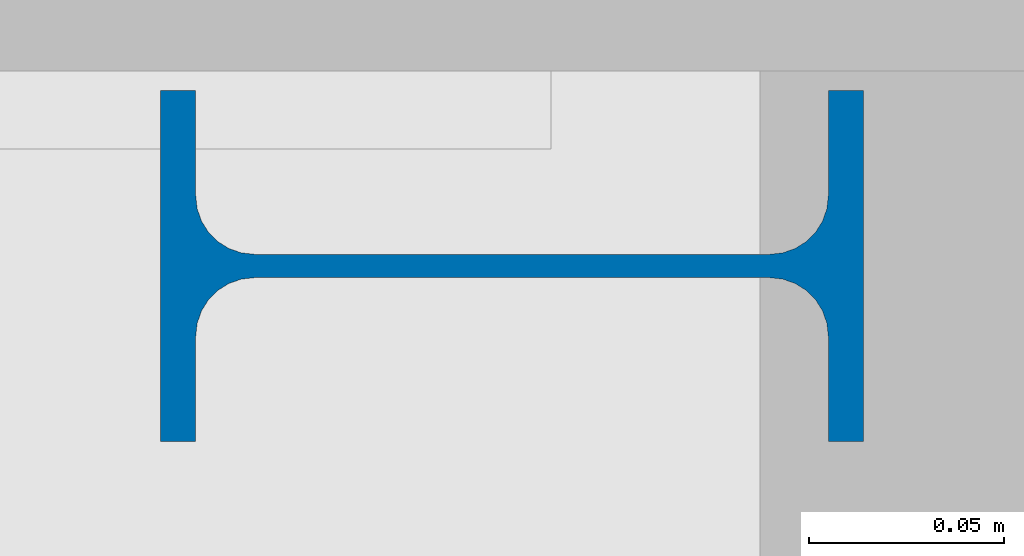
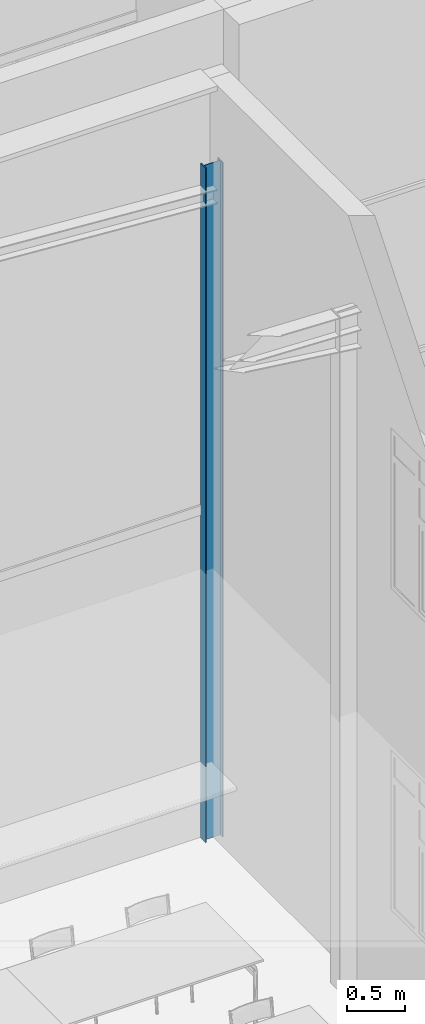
# One storey, part 7 of 137: 1 column.
"""IFC2X3 building model written with IfcOpenShell, lengths in centimetres."""

from ifc_helpers import new_model, entity, si_unit, converted_unit, derived_unit, direction, frame, frame_2d, origin, place, context, subcontext, project, spatial, polyline, circle_curve, parameter, trimmed, segment, composite_curve, outline, extrude, source, transform, mapped, material, type_object, type_shapes, element, save


model = new_model("IFC2X3")

# Units and contexts
model_context = context("Model", 3, precision=0.001, world=origin(), true_north=direction((6.12303176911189e-17, 1.0)))
body_context = subcontext(model_context, "Body", "Model", "MODEL_VIEW")
ifc_project = project(units=[si_unit("LENGTHUNIT", "METRE", prefix="CENTI"), si_unit("AREAUNIT", "SQUARE_METRE"), si_unit("VOLUMEUNIT", "CUBIC_METRE"), converted_unit("PLANEANGLEUNIT", "DEGREE", entity("IfcRatioMeasure", 0.0174532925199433), si_unit("PLANEANGLEUNIT", "RADIAN"), dimensions=[0, 0, 0, 0, 0, 0, 0]), si_unit("MASSUNIT", "GRAM", prefix="KILO"), si_unit("TIMEUNIT", "SECOND"), si_unit("FREQUENCYUNIT", "HERTZ"), si_unit("THERMODYNAMICTEMPERATUREUNIT", "DEGREE_CELSIUS"), derived_unit("THERMALTRANSMITTANCEUNIT", [(si_unit("MASSUNIT", "GRAM", prefix="KILO"), 1), (si_unit("THERMODYNAMICTEMPERATUREUNIT", "KELVIN"), -1), (si_unit("TIMEUNIT", "SECOND"), -3)]), derived_unit("VOLUMETRICFLOWRATEUNIT", [(si_unit("LENGTHUNIT", "METRE"), 3), (si_unit("TIMEUNIT", "SECOND"), -1)]), si_unit("ELECTRICCURRENTUNIT", "AMPERE"), si_unit("ELECTRICVOLTAGEUNIT", "VOLT"), si_unit("POWERUNIT", "WATT"), si_unit("FORCEUNIT", "NEWTON", prefix="KILO"), si_unit("ILLUMINANCEUNIT", "LUX"), si_unit("LUMINOUSFLUXUNIT", "LUMEN"), si_unit("LUMINOUSINTENSITYUNIT", "CANDELA"), derived_unit("USERDEFINED", [(si_unit("MASSUNIT", "GRAM", prefix="KILO"), -1), (si_unit("LENGTHUNIT", "METRE"), -2), (si_unit("TIMEUNIT", "SECOND"), 3), (si_unit("LUMINOUSFLUXUNIT", "LUMEN"), 1)]), derived_unit("LINEARVELOCITYUNIT", [(si_unit("LENGTHUNIT", "METRE"), 1), (si_unit("TIMEUNIT", "SECOND"), -1)]), si_unit("PRESSUREUNIT", "PASCAL"), derived_unit("USERDEFINED", [(si_unit("LENGTHUNIT", "METRE"), -2), (si_unit("MASSUNIT", "GRAM", prefix="KILO"), 1), (si_unit("TIMEUNIT", "SECOND"), -2)])], contexts=[model_context])

# Site, building, storey
site_placement = place(None, frame((8.62739174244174, -249.285249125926, 0.0)))
site = spatial("IfcSite", under=ifc_project, at=site_placement, Name="Default", CompositionType="ELEMENT")
building_placement = place(site_placement, origin())
building = spatial("IfcBuilding", under=site, at=building_placement, CompositionType="ELEMENT")
storey_placement = place(building_placement, origin())
storey = spatial("IfcBuildingStorey", under=building, at=storey_placement, Name="RDC", CompositionType="ELEMENT", Elevation=-8.82465566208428e-11)

# Column
ifc_material = material(Name="Acier, 45-345")
column_type = type_object("IfcColumnType", Name="IPE 180", PredefinedType="COLUMN", material=ifc_material)
shared_shape = source(origin(), body_context, "Body", "SweptSolid", [
    extrude(outline(composite_curve([segment(polyline([(8.1, -4.5), (9.0, -4.5)]), True, "CONTINUOUS"), segment(polyline([(9.0, -4.5), (9.0, 4.5)]), True, "CONTINUOUS"), segment(polyline([(9.0, 4.5), (8.1, 4.5)]), True, "CONTINUOUS"), segment(polyline([(8.1, 4.5), (8.1, 1.8)]), True, "CONTINUOUS"), segment(trimmed(circle_curve(frame_2d((6.6, 1.8), x_axis=(1.0, 0.0)), 1.5), [parameter(270.0)], [parameter(0.0)], True, "PARAMETER"), False, "CONTINUOUS"), segment(polyline([(6.60000000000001, 0.300000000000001), (-6.6, 0.300000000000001)]), True, "CONTINUOUS"), segment(trimmed(circle_curve(frame_2d((-6.6, 1.8), x_axis=(0.0, -1.0)), 1.5), [parameter(270.0)], [parameter(0.0)], True, "PARAMETER"), False, "CONTINUOUS"), segment(polyline([(-8.1, 1.8), (-8.1, 4.5)]), True, "CONTINUOUS"), segment(polyline([(-8.1, 4.5), (-9.0, 4.5)]), True, "CONTINUOUS"), segment(polyline([(-9.0, 4.5), (-9.0, -4.5)]), True, "CONTINUOUS"), segment(polyline([(-9.0, -4.5), (-8.1, -4.5)]), True, "CONTINUOUS"), segment(polyline([(-8.1, -4.5), (-8.1, -1.8)]), True, "CONTINUOUS"), segment(trimmed(circle_curve(frame_2d((-6.6, -1.8), x_axis=(-1.0, 0.0)), 1.5), [parameter(270.0)], [parameter(0.0)], True, "PARAMETER"), False, "CONTINUOUS"), segment(polyline([(-6.6, -0.3), (6.6, -0.3)]), True, "CONTINUOUS"), segment(trimmed(circle_curve(frame_2d((6.6, -1.8), x_axis=(0.0, 1.0)), 1.5), [parameter(270.0)], [parameter(0.0)], True, "PARAMETER"), False, "CONTINUOUS"), segment(polyline([(8.1, -1.8), (8.1, -4.5)]), True, "CONTINUOUS")], self_intersect=False)), frame((0.0, 0.0, 0.0), z_axis=(0.0, 0.0, 1.0), x_axis=(0.0, -1.0, 0.0)), (0.0, 0.0, 1.0), 715.0),
])
type_shapes(column_type, [shared_shape])
column_placement = place(storey_placement, frame((3661.90000000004, 2611.98020806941, 0.0), z_axis=(0.0, 0.0, 1.0), x_axis=(0.0, 1.0, 0.0)))
element("IfcColumn", 1, at=column_placement, inside=storey, type_object=column_type, material=ifc_material, Name="IPE-180-90:IPE 180", ObjectType="IPE 180", context=body_context, shape_type="MappedRepresentation", body=[
    mapped(shared_shape, transform((0.0, 0.0, 0.0), scale=1.0)),
])

save(model, "model.ifc")
